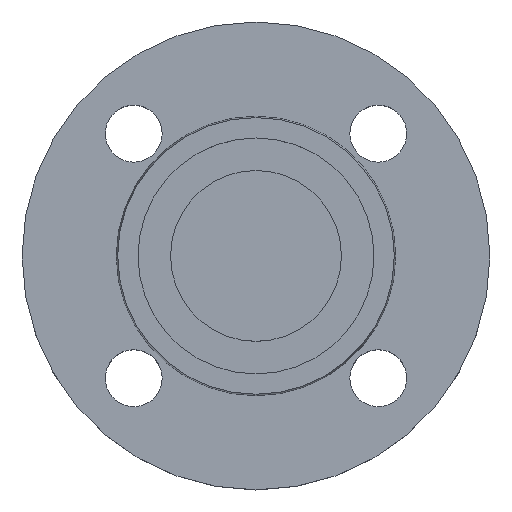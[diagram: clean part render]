
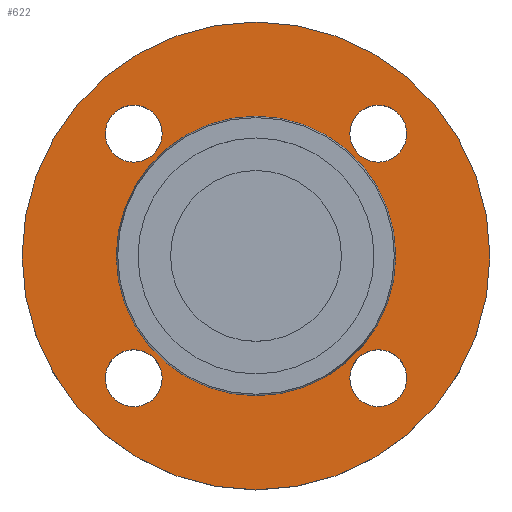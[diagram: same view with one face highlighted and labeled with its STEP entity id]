
A CAD part, top view. The second image highlights one B-rep face of the part: STEP entity #622.
In plain terms, the highlighted planar face has unit normal (0, 0, 1).
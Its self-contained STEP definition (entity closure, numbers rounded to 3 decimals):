
#4 = CIRCLE ( 'NONE', #261, 7. ) ;
#20 = AXIS2_PLACEMENT_3D ( 'NONE', #161, #210, #198 ) ;
#22 = CARTESIAN_POINT ( 'NONE',  ( -37.052, -30.052, -2. ) ) ;
#24 = DIRECTION ( 'NONE',  ( 1., 0., 0. ) ) ;
#25 = DIRECTION ( 'NONE',  ( 0., 0., 1. ) ) ;
#28 = CARTESIAN_POINT ( 'NONE',  ( 34.353, 0., -2. ) ) ;
#30 = PLANE ( 'NONE',  #209 ) ;
#31 = FACE_OUTER_BOUND ( 'NONE', #548, .T. ) ;
#32 = FACE_BOUND ( 'NONE', #598, .T. ) ;
#33 = FACE_BOUND ( 'NONE', #570, .T. ) ;
#34 = FACE_BOUND ( 'NONE', #608, .T. ) ;
#36 = FACE_BOUND ( 'NONE', #613, .T. ) ;
#39 = FACE_BOUND ( 'NONE', #571, .T. ) ;
#40 = CARTESIAN_POINT ( 'NONE',  ( 34.353, 0., -2. ) ) ;
#47 = CARTESIAN_POINT ( 'NONE',  ( 57.5, 0., -2. ) ) ;
#48 = CARTESIAN_POINT ( 'NONE',  ( 37.052, -30.052, -2. ) ) ;
#50 = CARTESIAN_POINT ( 'NONE',  ( -23.052, 30.052, -2. ) ) ;
#52 = CARTESIAN_POINT ( 'NONE',  ( 0., 0., -2. ) ) ;
#56 = DIRECTION ( 'NONE',  ( 0., 0., -1. ) ) ;
#57 = DIRECTION ( 'NONE',  ( 1., 0., 0. ) ) ;
#58 = CARTESIAN_POINT ( 'NONE',  ( -57.5, 0., -2. ) ) ;
#59 = CARTESIAN_POINT ( 'NONE',  ( -30.052, 30.052, -2. ) ) ;
#61 = CARTESIAN_POINT ( 'NONE',  ( 23.052, 30.052, -2. ) ) ;
#64 = CARTESIAN_POINT ( 'NONE',  ( -37.052, 30.052, -2. ) ) ;
#70 = DIRECTION ( 'NONE',  ( 1., 0., 0. ) ) ;
#75 = CIRCLE ( 'NONE', #421, 34.353 ) ;
#82 = EDGE_CURVE ( 'NONE', #615, #572, #169, .T. ) ;
#85 = EDGE_CURVE ( 'NONE', #523, #621, #246, .T. ) ;
#95 = CARTESIAN_POINT ( 'NONE',  ( 23.052, -30.052, -2. ) ) ;
#98 = CIRCLE ( 'NONE', #20, 57.5 ) ;
#101 = DIRECTION ( 'NONE',  ( 0., 0., -1. ) ) ;
#117 = DIRECTION ( 'NONE',  ( 0., 0., -1. ) ) ;
#120 = CARTESIAN_POINT ( 'NONE',  ( -30.052, 30.052, -2. ) ) ;
#122 = DIRECTION ( 'NONE',  ( 0., 0., -1. ) ) ;
#124 = CARTESIAN_POINT ( 'NONE',  ( 30.052, 30.052, -2. ) ) ;
#129 = DIRECTION ( 'NONE',  ( 1., 0., 0. ) ) ;
#133 = DIRECTION ( 'NONE',  ( -1., 0., 0. ) ) ;
#145 = DIRECTION ( 'NONE',  ( 0., 0., -1. ) ) ;
#149 = DIRECTION ( 'NONE',  ( 1., 0., 0. ) ) ;
#161 = CARTESIAN_POINT ( 'NONE',  ( 0., 0., -2. ) ) ;
#163 = AXIS2_PLACEMENT_3D ( 'NONE', #712, #713, #715 ) ;
#164 = CIRCLE ( 'NONE', #163, 7. ) ;
#167 = AXIS2_PLACEMENT_3D ( 'NONE', #705, #706, #707 ) ;
#169 = CIRCLE ( 'NONE', #319, 7. ) ;
#172 = CIRCLE ( 'NONE', #167, 7. ) ;
#198 = DIRECTION ( 'NONE',  ( -1., 0., 0. ) ) ;
#204 = EDGE_CURVE ( 'NONE', #275, #624, #172, .T. ) ;
#208 = EDGE_CURVE ( 'NONE', #607, #465, #164, .T. ) ;
#209 = AXIS2_PLACEMENT_3D ( 'NONE', #28, #25, #24 ) ;
#210 = DIRECTION ( 'NONE',  ( 0., 0., -1. ) ) ;
#216 = AXIS2_PLACEMENT_3D ( 'NONE', #333, #101, #149 ) ;
#242 = CIRCLE ( 'NONE', #249, 57.5 ) ;
#244 = CIRCLE ( 'NONE', #518, 7. ) ;
#246 = CIRCLE ( 'NONE', #268, 34.353 ) ;
#249 = AXIS2_PLACEMENT_3D ( 'NONE', #360, #729, #264 ) ;
#261 = AXIS2_PLACEMENT_3D ( 'NONE', #751, #752, #754 ) ;
#262 = CIRCLE ( 'NONE', #612, 7. ) ;
#264 = DIRECTION ( 'NONE',  ( -1., 0., 0. ) ) ;
#266 = EDGE_CURVE ( 'NONE', #624, #275, #4, .T. ) ;
#268 = AXIS2_PLACEMENT_3D ( 'NONE', #658, #661, #663 ) ;
#275 = VERTEX_POINT ( 'NONE', #756 ) ;
#319 = AXIS2_PLACEMENT_3D ( 'NONE', #653, #655, #657 ) ;
#333 = CARTESIAN_POINT ( 'NONE',  ( 30.052, -30.052, -2. ) ) ;
#334 = CARTESIAN_POINT ( 'NONE',  ( 37.052, 30.052, -2. ) ) ;
#357 = CIRCLE ( 'NONE', #362, 7. ) ;
#360 = CARTESIAN_POINT ( 'NONE',  ( 0., 0., -2. ) ) ;
#362 = AXIS2_PLACEMENT_3D ( 'NONE', #124, #122, #70 ) ;
#373 = EDGE_CURVE ( 'NONE', #611, #616, #98, .T. ) ;
#421 = AXIS2_PLACEMENT_3D ( 'NONE', #52, #145, #133 ) ;
#435 = ORIENTED_EDGE ( 'NONE', *, *, #82, .T. ) ;
#438 = ORIENTED_EDGE ( 'NONE', *, *, #536, .T. ) ;
#439 = CIRCLE ( 'NONE', #216, 7. ) ;
#447 = CARTESIAN_POINT ( 'NONE',  ( -34.353, 0., -2. ) ) ;
#450 = EDGE_CURVE ( 'NONE', #621, #523, #75, .T. ) ;
#451 = ORIENTED_EDGE ( 'NONE', *, *, #204, .T. ) ;
#453 = ORIENTED_EDGE ( 'NONE', *, *, #266, .T. ) ;
#454 = ORIENTED_EDGE ( 'NONE', *, *, #486, .T. ) ;
#455 = ORIENTED_EDGE ( 'NONE', *, *, #610, .T. ) ;
#456 = ORIENTED_EDGE ( 'NONE', *, *, #589, .T. ) ;
#457 = ORIENTED_EDGE ( 'NONE', *, *, #450, .T. ) ;
#459 = ORIENTED_EDGE ( 'NONE', *, *, #373, .F. ) ;
#465 = VERTEX_POINT ( 'NONE', #334 ) ;
#486 = EDGE_CURVE ( 'NONE', #614, #603, #262, .T. ) ;
#518 = AXIS2_PLACEMENT_3D ( 'NONE', #59, #56, #57 ) ;
#523 = VERTEX_POINT ( 'NONE', #447 ) ;
#534 = ORIENTED_EDGE ( 'NONE', *, *, #208, .T. ) ;
#536 = EDGE_CURVE ( 'NONE', #572, #615, #439, .T. ) ;
#538 = ORIENTED_EDGE ( 'NONE', *, *, #85, .T. ) ;
#540 = ORIENTED_EDGE ( 'NONE', *, *, #695, .F. ) ;
#548 = EDGE_LOOP ( 'NONE', ( #540, #459 ) ) ;
#570 = EDGE_LOOP ( 'NONE', ( #456, #534 ) ) ;
#571 = EDGE_LOOP ( 'NONE', ( #435, #438 ) ) ;
#572 = VERTEX_POINT ( 'NONE', #95 ) ;
#589 = EDGE_CURVE ( 'NONE', #465, #607, #357, .T. ) ;
#598 = EDGE_LOOP ( 'NONE', ( #538, #457 ) ) ;
#603 = VERTEX_POINT ( 'NONE', #64 ) ;
#607 = VERTEX_POINT ( 'NONE', #61 ) ;
#608 = EDGE_LOOP ( 'NONE', ( #454, #455 ) ) ;
#610 = EDGE_CURVE ( 'NONE', #603, #614, #244, .T. ) ;
#611 = VERTEX_POINT ( 'NONE', #58 ) ;
#612 = AXIS2_PLACEMENT_3D ( 'NONE', #120, #117, #129 ) ;
#613 = EDGE_LOOP ( 'NONE', ( #451, #453 ) ) ;
#614 = VERTEX_POINT ( 'NONE', #50 ) ;
#615 = VERTEX_POINT ( 'NONE', #48 ) ;
#616 = VERTEX_POINT ( 'NONE', #47 ) ;
#621 = VERTEX_POINT ( 'NONE', #40 ) ;
#622 = ADVANCED_FACE ( 'NONE', ( #39, #36, #34, #33, #32, #31 ), #30, .T. ) ;
#624 = VERTEX_POINT ( 'NONE', #22 ) ;
#653 = CARTESIAN_POINT ( 'NONE',  ( 30.052, -30.052, -2. ) ) ;
#655 = DIRECTION ( 'NONE',  ( 0., 0., -1. ) ) ;
#657 = DIRECTION ( 'NONE',  ( 1., 0., 0. ) ) ;
#658 = CARTESIAN_POINT ( 'NONE',  ( 0., 0., -2. ) ) ;
#661 = DIRECTION ( 'NONE',  ( 0., 0., -1. ) ) ;
#663 = DIRECTION ( 'NONE',  ( -1., 0., 0. ) ) ;
#695 = EDGE_CURVE ( 'NONE', #616, #611, #242, .T. ) ;
#705 = CARTESIAN_POINT ( 'NONE',  ( -30.052, -30.052, -2. ) ) ;
#706 = DIRECTION ( 'NONE',  ( 0., 0., -1. ) ) ;
#707 = DIRECTION ( 'NONE',  ( 1., 0., 0. ) ) ;
#712 = CARTESIAN_POINT ( 'NONE',  ( 30.052, 30.052, -2. ) ) ;
#713 = DIRECTION ( 'NONE',  ( 0., 0., -1. ) ) ;
#715 = DIRECTION ( 'NONE',  ( 1., 0., 0. ) ) ;
#729 = DIRECTION ( 'NONE',  ( 0., 0., -1. ) ) ;
#751 = CARTESIAN_POINT ( 'NONE',  ( -30.052, -30.052, -2. ) ) ;
#752 = DIRECTION ( 'NONE',  ( 0., 0., -1. ) ) ;
#754 = DIRECTION ( 'NONE',  ( 1., 0., 0. ) ) ;
#756 = CARTESIAN_POINT ( 'NONE',  ( -23.052, -30.052, -2. ) ) ;
